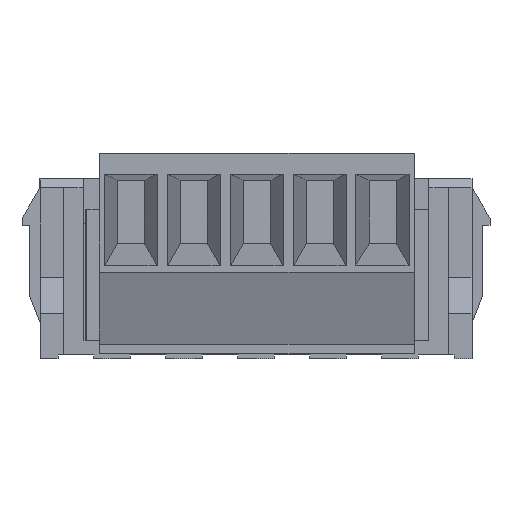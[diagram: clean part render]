
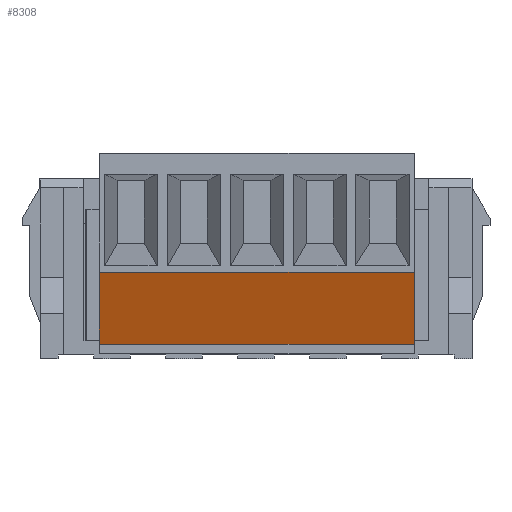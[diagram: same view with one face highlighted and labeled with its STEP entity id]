
A CAD part, front view. The second image highlights one B-rep face of the part: STEP entity #8308.
In plain terms, the highlighted planar face has unit normal (0, -0.936, -0.351).
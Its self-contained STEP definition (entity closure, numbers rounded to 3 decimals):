
#1003 = DIRECTION ( 'NONE',  ( 1., 0., 0. ) ) ;
#1004 = VECTOR ( 'NONE', #1003, 1000. ) ;
#1005 = CARTESIAN_POINT ( 'NONE',  ( -8.7, -35.9, 0.8 ) ) ;
#1007 = CARTESIAN_POINT ( 'NONE',  ( -8.7, -35.9, 0.8 ) ) ;
#1011 = CARTESIAN_POINT ( 'NONE',  ( 8.8, -35.9, 0.8 ) ) ;
#1014 = LINE ( 'NONE', #1005, #1004 ) ;
#1025 = CARTESIAN_POINT ( 'NONE',  ( -8.7, -37.4, 4.8 ) ) ;
#1031 = LINE ( 'NONE', #1094, #1093 ) ;
#1039 = DIRECTION ( 'NONE',  ( 0., -0.351, 0.936 ) ) ;
#1040 = VECTOR ( 'NONE', #1039, 1000. ) ;
#1041 = CARTESIAN_POINT ( 'NONE',  ( -8.7, -35.9, 0.8 ) ) ;
#1042 = LINE ( 'NONE', #1041, #1040 ) ;
#1057 = DIRECTION ( 'NONE',  ( 0., -0.351, 0.936 ) ) ;
#1058 = VECTOR ( 'NONE', #1057, 1000. ) ;
#1059 = CARTESIAN_POINT ( 'NONE',  ( 8.8, -35.9, 0.8 ) ) ;
#1060 = LINE ( 'NONE', #1059, #1058 ) ;
#1079 = DIRECTION ( 'NONE',  ( 0., 0.351, -0.936 ) ) ;
#1080 = DIRECTION ( 'NONE',  ( 0., 0.936, 0.351 ) ) ;
#1083 = PLANE ( 'NONE',  #1089 ) ;
#1089 = AXIS2_PLACEMENT_3D ( 'NONE', #1095, #1080, #1079 ) ;
#1090 = FACE_OUTER_BOUND ( 'NONE', #8286, .T. ) ;
#1091 = CARTESIAN_POINT ( 'NONE',  ( 8.8, -37.4, 4.8 ) ) ;
#1092 = DIRECTION ( 'NONE',  ( 1., 0., 0. ) ) ;
#1093 = VECTOR ( 'NONE', #1092, 1000. ) ;
#1094 = CARTESIAN_POINT ( 'NONE',  ( -8.7, -37.4, 4.8 ) ) ;
#1095 = CARTESIAN_POINT ( 'NONE',  ( -8.7, -35.9, 0.8 ) ) ;
#8280 = VERTEX_POINT ( 'NONE', #1025 ) ;
#8284 = EDGE_CURVE ( 'NONE', #8285, #8289, #1014, .T. ) ;
#8285 = VERTEX_POINT ( 'NONE', #1007 ) ;
#8286 = EDGE_LOOP ( 'NONE', ( #8311, #8302, #8297, #8405 ) ) ;
#8289 = VERTEX_POINT ( 'NONE', #1011 ) ;
#8291 = EDGE_CURVE ( 'NONE', #8289, #8307, #1060, .T. ) ;
#8297 = ORIENTED_EDGE ( 'NONE', *, *, #8298, .F. ) ;
#8298 = EDGE_CURVE ( 'NONE', #8285, #8280, #1042, .T. ) ;
#8301 = EDGE_CURVE ( 'NONE', #8280, #8307, #1031, .T. ) ;
#8302 = ORIENTED_EDGE ( 'NONE', *, *, #8301, .F. ) ;
#8307 = VERTEX_POINT ( 'NONE', #1091 ) ;
#8308 = ADVANCED_FACE ( 'NONE', ( #1090 ), #1083, .F. ) ;
#8311 = ORIENTED_EDGE ( 'NONE', *, *, #8291, .T. ) ;
#8405 = ORIENTED_EDGE ( 'NONE', *, *, #8284, .T. ) ;
